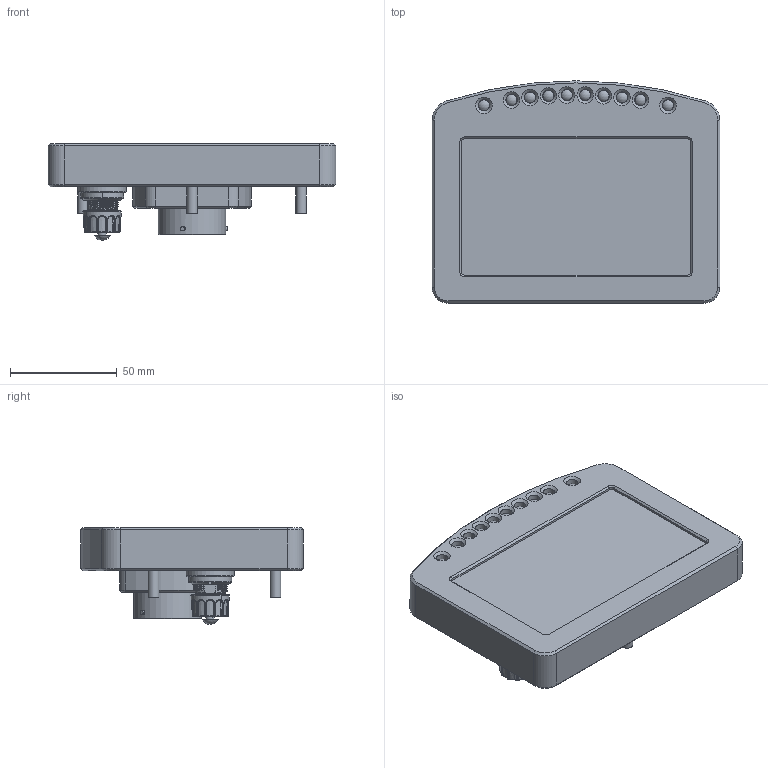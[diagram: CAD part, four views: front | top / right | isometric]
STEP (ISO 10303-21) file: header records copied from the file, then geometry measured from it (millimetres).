
FILE_DESCRIPTION(/* description */ ('Alibre Inc.'),/* implementation_level */ '2;1');
FILE_NAME(/* name */ 'export0',/* time_stamp */ '2015-11-23T16:15:05+11:00',/* author */ (''),/* organization */ (''),/* preprocessor_version */ 'ST-DEVELOPER v14',/* originating_system */ 'Alibre',/* authorisation */ '');
FILE_SCHEMA (('AUTOMOTIVE_DESIGN'));
Length unit declared in the file: centimetre
Bounding box: 134.5 x 103.9 x 45.3 mm (x, y, z)
Volume: 271065.5 mm3; surface area: 56765.7 mm2
Topology: 38 solids, 38 shells, 1712 faces, 6743 edges, 5189 vertices
Faces by surface type: plane 885, cylinder 536, bspline 149, cone 57, torus 36, sphere 26, revolution 23
Full cylindrical faces by diameter (mm): 0.8 x79, 2 x3, 3.2 x2, 5 x13, 5.4 x10, 22.5 x1, 31.75 x1
Entity records: 107119 total; most frequent: CARTESIAN_POINT 49405, ORIENTED_EDGE 13154, DIRECTION 11142, EDGE_CURVE 6577, VERTEX_POINT 5168, AXIS2_PLACEMENT_3D 4715, CIRCLE 3153, VECTOR 2600
